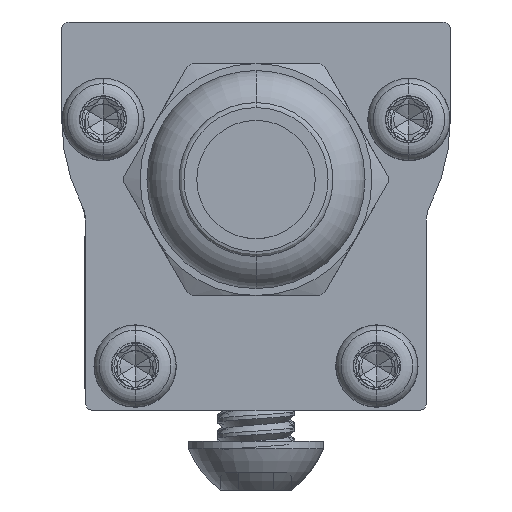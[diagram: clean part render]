
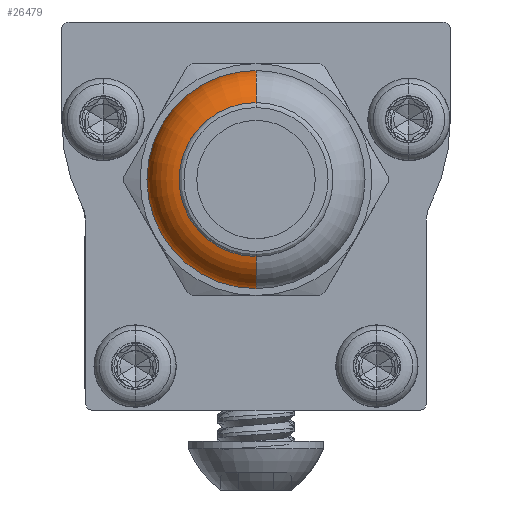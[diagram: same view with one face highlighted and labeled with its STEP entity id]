
A CAD part, left-side view. The second image highlights one B-rep face of the part: STEP entity #26479.
In plain terms, the highlighted toroidal (fillet/blend) face has major radius 3.518 mm and minor radius 2.095 mm.
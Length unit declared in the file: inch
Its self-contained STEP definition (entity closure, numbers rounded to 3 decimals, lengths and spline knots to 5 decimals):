
#2323 = ORIENTED_EDGE ( 'NONE', *, *, #24412, .F. ) ;
#2851 = AXIS2_PLACEMENT_3D ( 'NONE', #7548, #28881, #24204 ) ;
#3029 = CIRCLE ( 'NONE', #13839, 0.0825 ) ;
#3381 = EDGE_CURVE ( 'NONE', #14090, #26408, #11663, .T. ) ;
#3978 = DIRECTION ( 'NONE',  ( 0., -1., 0. ) ) ;
#4191 = ORIENTED_EDGE ( 'NONE', *, *, #21571, .T. ) ;
#6453 = DIRECTION ( 'NONE',  ( -1., 0., 0. ) ) ;
#7548 = CARTESIAN_POINT ( 'NONE',  ( -0.395, 0., 0. ) ) ;
#7748 = VERTEX_POINT ( 'NONE', #18374 ) ;
#8977 = AXIS2_PLACEMENT_3D ( 'NONE', #21036, #6453, #28336 ) ;
#8994 = CARTESIAN_POINT ( 'NONE',  ( -0.31437, 0., 0. ) ) ;
#9742 = CIRCLE ( 'NONE', #2851, 0.156 ) ;
#10386 = EDGE_LOOP ( 'NONE', ( #13939, #4191, #25076, #2323 ) ) ;
#11041 = FACE_OUTER_BOUND ( 'NONE', #10386, .T. ) ;
#11247 = CARTESIAN_POINT ( 'NONE',  ( -0.31437, 0., 0.13852 ) ) ;
#11391 = DIRECTION ( 'NONE',  ( 1., 0., 0. ) ) ;
#11663 = CIRCLE ( 'NONE', #18386, 0.22102 ) ;
#13356 = CIRCLE ( 'NONE', #28480, 0.0825 ) ;
#13768 = DIRECTION ( 'NONE',  ( 0., 0., 1. ) ) ;
#13839 = AXIS2_PLACEMENT_3D ( 'NONE', #19969, #17980, #27288 ) ;
#13939 = ORIENTED_EDGE ( 'NONE', *, *, #3381, .F. ) ;
#14090 = VERTEX_POINT ( 'NONE', #21129 ) ;
#14252 = DIRECTION ( 'NONE',  ( 0., 0., -1. ) ) ;
#17980 = DIRECTION ( 'NONE',  ( 0., 1., 0. ) ) ;
#18374 = CARTESIAN_POINT ( 'NONE',  ( -0.395, 0., 0.156 ) ) ;
#18386 = AXIS2_PLACEMENT_3D ( 'NONE', #8994, #11391, #13768 ) ;
#19969 = CARTESIAN_POINT ( 'NONE',  ( -0.31437, 0., -0.13852 ) ) ;
#20830 = CARTESIAN_POINT ( 'NONE',  ( -0.31437, 0., 0.22102 ) ) ;
#21036 = CARTESIAN_POINT ( 'NONE',  ( -0.31437, 0., 0. ) ) ;
#21129 = CARTESIAN_POINT ( 'NONE',  ( -0.31437, 0., -0.22102 ) ) ;
#21571 = EDGE_CURVE ( 'NONE', #14090, #27673, #3029, .T. ) ;
#22455 = EDGE_CURVE ( 'NONE', #7748, #27673, #9742, .T. ) ;
#22932 = TOROIDAL_SURFACE ( 'NONE', #8977, 0.13852, 0.0825 ) ;
#24204 = DIRECTION ( 'NONE',  ( 0., 0., 1. ) ) ;
#24412 = EDGE_CURVE ( 'NONE', #26408, #7748, #13356, .T. ) ;
#25076 = ORIENTED_EDGE ( 'NONE', *, *, #22455, .F. ) ;
#26408 = VERTEX_POINT ( 'NONE', #20830 ) ;
#26479 = ADVANCED_FACE ( 'NONE', ( #11041 ), #22932, .T. ) ;
#27288 = DIRECTION ( 'NONE',  ( 0., 0., 1. ) ) ;
#27673 = VERTEX_POINT ( 'NONE', #30108 ) ;
#28336 = DIRECTION ( 'NONE',  ( 0., 0., 1. ) ) ;
#28480 = AXIS2_PLACEMENT_3D ( 'NONE', #11247, #3978, #14252 ) ;
#28881 = DIRECTION ( 'NONE',  ( -1., 0., 0. ) ) ;
#30108 = CARTESIAN_POINT ( 'NONE',  ( -0.395, 0., -0.156 ) ) ;
